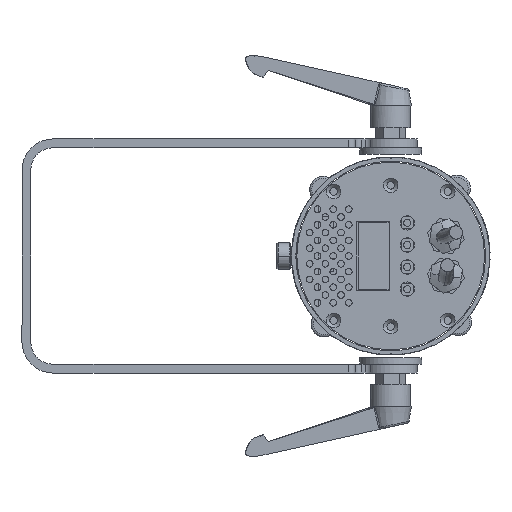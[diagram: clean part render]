
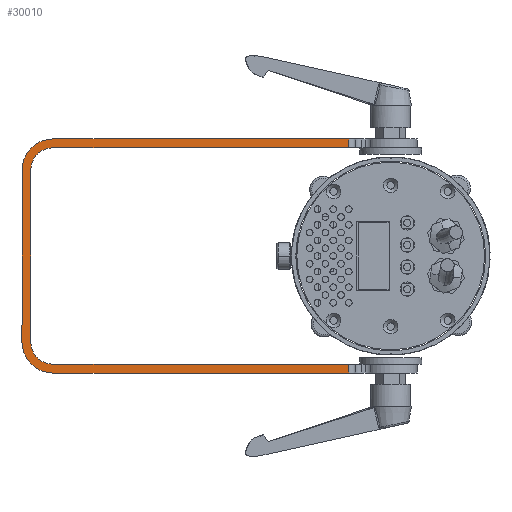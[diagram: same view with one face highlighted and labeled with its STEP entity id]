
A CAD part, left-side view. The second image highlights one B-rep face of the part: STEP entity #30010.
In plain terms, the highlighted planar face has unit normal (-1, 0, 0) as drawn and (0, -1, 0) by its records, which use the part's own axes.
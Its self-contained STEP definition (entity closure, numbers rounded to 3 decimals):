
#20 = VECTOR ( 'NONE', #26113, 1000. ) ;
#590 = DIRECTION ( 'NONE',  ( 0., 0., 1. ) ) ;
#592 = EDGE_CURVE ( 'NONE', #3057, #17951, #17013, .T. ) ;
#1247 = CARTESIAN_POINT ( 'NONE',  ( 147.913, -12.5, -53. ) ) ;
#1298 = VECTOR ( 'NONE', #5323, 1000. ) ;
#1346 = VERTEX_POINT ( 'NONE', #34505 ) ;
#2135 = AXIS2_PLACEMENT_3D ( 'NONE', #10374, #16406, #24914 ) ;
#2171 = DIRECTION ( 'NONE',  ( 1., 0., 0. ) ) ;
#2521 = LINE ( 'NONE', #35401, #2799 ) ;
#2639 = DIRECTION ( 'NONE',  ( 0., 1., 0. ) ) ;
#2799 = VECTOR ( 'NONE', #8325, 1000. ) ;
#2902 = DIRECTION ( 'NONE',  ( 0., -1., 0. ) ) ;
#2904 = ORIENTED_EDGE ( 'NONE', *, *, #16737, .F. ) ;
#3057 = VERTEX_POINT ( 'NONE', #26927 ) ;
#4295 = VERTEX_POINT ( 'NONE', #8646 ) ;
#4404 = ORIENTED_EDGE ( 'NONE', *, *, #36543, .F. ) ;
#4464 = DIRECTION ( 'NONE',  ( 0., 1., 0. ) ) ;
#4482 = EDGE_CURVE ( 'NONE', #33005, #17951, #15643, .T. ) ;
#4874 = LINE ( 'NONE', #13808, #22060 ) ;
#5323 = DIRECTION ( 'NONE',  ( -1., 0., 0. ) ) ;
#6107 = AXIS2_PLACEMENT_3D ( 'NONE', #11172, #2639, #14479 ) ;
#7027 = ORIENTED_EDGE ( 'NONE', *, *, #23066, .F. ) ;
#7658 = DIRECTION ( 'NONE',  ( 0., 0., 1. ) ) ;
#7814 = AXIS2_PLACEMENT_3D ( 'NONE', #26554, #2902, #590 ) ;
#8143 = VECTOR ( 'NONE', #7658, 1000. ) ;
#8325 = DIRECTION ( 'NONE',  ( 0., 0., -1. ) ) ;
#8570 = AXIS2_PLACEMENT_3D ( 'NONE', #30990, #4464, #16313 ) ;
#8636 = CARTESIAN_POINT ( 'NONE',  ( 147.913, -12.5, -53. ) ) ;
#8646 = CARTESIAN_POINT ( 'NONE',  ( 4., -12.5, -39. ) ) ;
#9215 = VECTOR ( 'NONE', #14720, 1000. ) ;
#9991 = EDGE_CURVE ( 'NONE', #34237, #4295, #2521, .T. ) ;
#9999 = CARTESIAN_POINT ( 'NONE',  ( 147.913, -12.5, -53. ) ) ;
#10374 = CARTESIAN_POINT ( 'NONE',  ( 14., -12.5, 39. ) ) ;
#10908 = ORIENTED_EDGE ( 'NONE', *, *, #592, .F. ) ;
#11172 = CARTESIAN_POINT ( 'NONE',  ( 14., -12.5, -39. ) ) ;
#11224 = CARTESIAN_POINT ( 'NONE',  ( 179., -12.5, -53. ) ) ;
#11524 = CARTESIAN_POINT ( 'NONE',  ( 179., -12.5, 49. ) ) ;
#11534 = VERTEX_POINT ( 'NONE', #38065 ) ;
#11593 = ORIENTED_EDGE ( 'NONE', *, *, #9991, .F. ) ;
#11832 = VERTEX_POINT ( 'NONE', #25513 ) ;
#13808 = CARTESIAN_POINT ( 'NONE',  ( 179., -12.5, 53. ) ) ;
#14479 = DIRECTION ( 'NONE',  ( 0., 0., 1. ) ) ;
#14556 = VERTEX_POINT ( 'NONE', #37747 ) ;
#14720 = DIRECTION ( 'NONE',  ( -1., 0., 0. ) ) ;
#15643 = LINE ( 'NONE', #9999, #8143 ) ;
#16040 = EDGE_LOOP ( 'NONE', ( #18283, #20862, #10908, #28218, #11593, #18838, #27804, #16058, #34195, #7027, #4404, #2904 ) ) ;
#16058 = ORIENTED_EDGE ( 'NONE', *, *, #20993, .T. ) ;
#16313 = DIRECTION ( 'NONE',  ( 0., 0., 1. ) ) ;
#16406 = DIRECTION ( 'NONE',  ( 0., 1., 0. ) ) ;
#16737 = EDGE_CURVE ( 'NONE', #1346, #31489, #31483, .T. ) ;
#16910 = AXIS2_PLACEMENT_3D ( 'NONE', #29695, #32598, #21002 ) ;
#17013 = LINE ( 'NONE', #38054, #20 ) ;
#17042 = CARTESIAN_POINT ( 'NONE',  ( 0., -12.5, -39. ) ) ;
#17208 = EDGE_CURVE ( 'NONE', #4295, #3057, #22851, .T. ) ;
#17585 = CIRCLE ( 'NONE', #2135, 14. ) ;
#17951 = VERTEX_POINT ( 'NONE', #35459 ) ;
#18283 = ORIENTED_EDGE ( 'NONE', *, *, #32622, .F. ) ;
#18649 = VECTOR ( 'NONE', #34134, 1000. ) ;
#18838 = ORIENTED_EDGE ( 'NONE', *, *, #25176, .F. ) ;
#19246 = CARTESIAN_POINT ( 'NONE',  ( 14., -12.5, 49. ) ) ;
#20862 = ORIENTED_EDGE ( 'NONE', *, *, #4482, .T. ) ;
#20993 = EDGE_CURVE ( 'NONE', #11534, #14556, #27780, .T. ) ;
#21002 = DIRECTION ( 'NONE',  ( 0., 0., 1. ) ) ;
#21219 = VECTOR ( 'NONE', #36661, 1000. ) ;
#22060 = VECTOR ( 'NONE', #2171, 1000. ) ;
#22101 = FACE_OUTER_BOUND ( 'NONE', #16040, .T. ) ;
#22346 = CARTESIAN_POINT ( 'NONE',  ( 0., -12.5, 39. ) ) ;
#22851 = CIRCLE ( 'NONE', #16910, 10. ) ;
#23066 = EDGE_CURVE ( 'NONE', #11832, #27070, #17585, .T. ) ;
#24478 = VERTEX_POINT ( 'NONE', #19246 ) ;
#24914 = DIRECTION ( 'NONE',  ( 0., 0., 1. ) ) ;
#25176 = EDGE_CURVE ( 'NONE', #24478, #34237, #28824, .T. ) ;
#25513 = CARTESIAN_POINT ( 'NONE',  ( 0., -12.5, 39. ) ) ;
#26113 = DIRECTION ( 'NONE',  ( 1., 0., 0. ) ) ;
#26554 = CARTESIAN_POINT ( 'NONE',  ( 14., -12.5, 39. ) ) ;
#26927 = CARTESIAN_POINT ( 'NONE',  ( 14., -12.5, -49. ) ) ;
#27070 = VERTEX_POINT ( 'NONE', #38033 ) ;
#27421 = EDGE_CURVE ( 'NONE', #27070, #14556, #4874, .T. ) ;
#27780 = LINE ( 'NONE', #1247, #21219 ) ;
#27804 = ORIENTED_EDGE ( 'NONE', *, *, #36232, .F. ) ;
#28218 = ORIENTED_EDGE ( 'NONE', *, *, #17208, .F. ) ;
#28824 = CIRCLE ( 'NONE', #7814, 10. ) ;
#29415 = LINE ( 'NONE', #11224, #9215 ) ;
#29695 = CARTESIAN_POINT ( 'NONE',  ( 14., -12.5, -39. ) ) ;
#30010 = ADVANCED_FACE ( 'NONE', ( #22101 ), #33878, .F. ) ;
#30990 = CARTESIAN_POINT ( 'NONE',  ( 14., -12.5, 39. ) ) ;
#31483 = CIRCLE ( 'NONE', #6107, 14. ) ;
#31489 = VERTEX_POINT ( 'NONE', #17042 ) ;
#31862 = LINE ( 'NONE', #11524, #1298 ) ;
#31899 = CARTESIAN_POINT ( 'NONE',  ( 4., -12.5, 39. ) ) ;
#32598 = DIRECTION ( 'NONE',  ( 0., -1., 0. ) ) ;
#32622 = EDGE_CURVE ( 'NONE', #33005, #1346, #29415, .T. ) ;
#33005 = VERTEX_POINT ( 'NONE', #8636 ) ;
#33878 = PLANE ( 'NONE',  #8570 ) ;
#34134 = DIRECTION ( 'NONE',  ( 0., 0., 1. ) ) ;
#34195 = ORIENTED_EDGE ( 'NONE', *, *, #27421, .F. ) ;
#34237 = VERTEX_POINT ( 'NONE', #31899 ) ;
#34505 = CARTESIAN_POINT ( 'NONE',  ( 14., -12.5, -53. ) ) ;
#35401 = CARTESIAN_POINT ( 'NONE',  ( 4., -12.5, -39. ) ) ;
#35459 = CARTESIAN_POINT ( 'NONE',  ( 147.913, -12.5, -49. ) ) ;
#36232 = EDGE_CURVE ( 'NONE', #11534, #24478, #31862, .T. ) ;
#36543 = EDGE_CURVE ( 'NONE', #31489, #11832, #37391, .T. ) ;
#36661 = DIRECTION ( 'NONE',  ( 0., 0., 1. ) ) ;
#37391 = LINE ( 'NONE', #22346, #18649 ) ;
#37747 = CARTESIAN_POINT ( 'NONE',  ( 147.913, -12.5, 53. ) ) ;
#38033 = CARTESIAN_POINT ( 'NONE',  ( 14., -12.5, 53. ) ) ;
#38054 = CARTESIAN_POINT ( 'NONE',  ( 179., -12.5, -49. ) ) ;
#38065 = CARTESIAN_POINT ( 'NONE',  ( 147.913, -12.5, 49. ) ) ;
